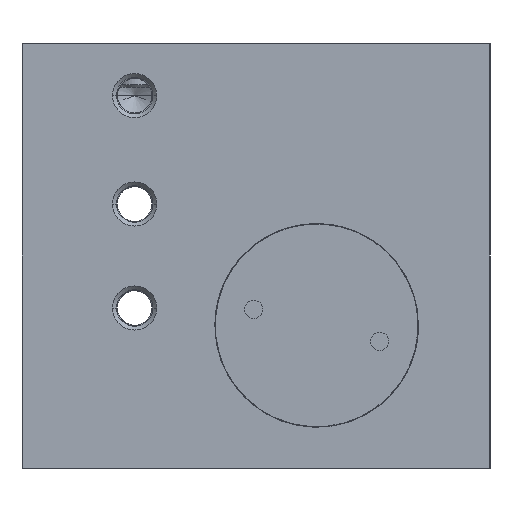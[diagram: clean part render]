
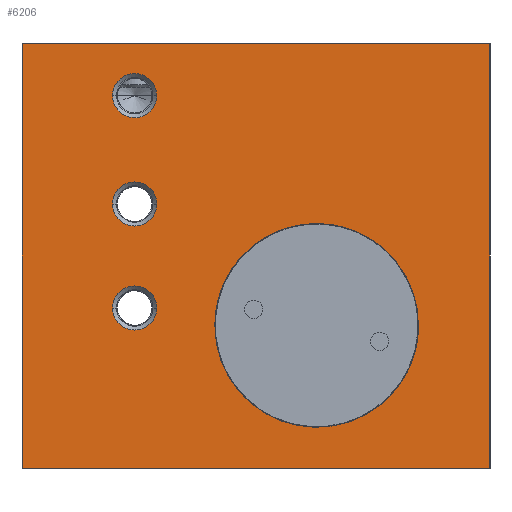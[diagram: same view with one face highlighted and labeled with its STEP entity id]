
A CAD part, left-side view. The second image highlights one B-rep face of the part: STEP entity #6206.
In plain terms, the highlighted planar face has unit normal (-1, 0, 0).
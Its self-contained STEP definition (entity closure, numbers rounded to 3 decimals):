
#705=DIRECTION('',(0.,0.,-1.));
#706=VECTOR('',#705,49.);
#707=CARTESIAN_POINT('',(-68.,0.,24.5));
#708=LINE('',#707,#706);
#781=DIRECTION('',(0.,1.,0.));
#782=VECTOR('',#781,54.);
#783=CARTESIAN_POINT('',(-68.,-54.,-24.5));
#784=LINE('',#783,#782);
#785=CARTESIAN_POINT('',(-68.,-34.,-8.));
#786=DIRECTION('',(1.,0.,0.));
#787=DIRECTION('',(0.,1.,0.));
#788=AXIS2_PLACEMENT_3D('',#785,#786,#787);
#790=CARTESIAN_POINT('',(-68.,-34.,-8.));
#791=DIRECTION('',(1.,0.,0.));
#792=DIRECTION('',(0.,-1.,0.));
#793=AXIS2_PLACEMENT_3D('',#790,#791,#792);
#795=CARTESIAN_POINT('',(-68.,-13.,-6.));
#796=DIRECTION('',(1.,0.,0.));
#797=DIRECTION('',(0.,-1.,0.));
#798=AXIS2_PLACEMENT_3D('',#795,#796,#797);
#800=CARTESIAN_POINT('',(-68.,-13.,-6.));
#801=DIRECTION('',(1.,0.,0.));
#802=DIRECTION('',(0.,1.,0.));
#803=AXIS2_PLACEMENT_3D('',#800,#801,#802);
#805=CARTESIAN_POINT('',(-68.,-13.,6.));
#806=DIRECTION('',(1.,0.,0.));
#807=DIRECTION('',(0.,-1.,0.));
#808=AXIS2_PLACEMENT_3D('',#805,#806,#807);
#810=CARTESIAN_POINT('',(-68.,-13.,6.));
#811=DIRECTION('',(1.,0.,0.));
#812=DIRECTION('',(0.,1.,0.));
#813=AXIS2_PLACEMENT_3D('',#810,#811,#812);
#815=CARTESIAN_POINT('',(-68.,-13.,18.5));
#816=DIRECTION('',(1.,0.,0.));
#817=DIRECTION('',(0.,-1.,0.));
#818=AXIS2_PLACEMENT_3D('',#815,#816,#817);
#820=CARTESIAN_POINT('',(-68.,-13.,18.5));
#821=DIRECTION('',(1.,0.,0.));
#822=DIRECTION('',(0.,1.,0.));
#823=AXIS2_PLACEMENT_3D('',#820,#821,#822);
#833=DIRECTION('',(0.,1.,0.));
#834=VECTOR('',#833,54.);
#835=CARTESIAN_POINT('',(-68.,-54.,24.5));
#836=LINE('',#835,#834);
#1019=DIRECTION('',(0.,0.,-1.));
#1020=VECTOR('',#1019,49.);
#1021=CARTESIAN_POINT('',(-68.,-54.,24.5));
#1022=LINE('',#1021,#1020);
#4637=CARTESIAN_POINT('',(-68.,0.,24.5));
#4638=CARTESIAN_POINT('',(-68.,0.,-24.5));
#4639=VERTEX_POINT('',#4637);
#4640=VERTEX_POINT('',#4638);
#4645=CARTESIAN_POINT('',(-68.,-54.,24.5));
#4646=CARTESIAN_POINT('',(-68.,-54.,-24.5));
#4647=VERTEX_POINT('',#4645);
#4648=VERTEX_POINT('',#4646);
#4793=CARTESIAN_POINT('',(-68.,-22.25,-8.));
#4794=CARTESIAN_POINT('',(-68.,-45.75,-8.));
#4795=VERTEX_POINT('',#4793);
#4796=VERTEX_POINT('',#4794);
#5023=CARTESIAN_POINT('',(-68.,-15.55,-6.));
#5024=VERTEX_POINT('',#5023);
#5027=CARTESIAN_POINT('',(-68.,-10.45,-6.));
#5028=VERTEX_POINT('',#5027);
#5039=CARTESIAN_POINT('',(-68.,-15.55,6.));
#5040=VERTEX_POINT('',#5039);
#5043=CARTESIAN_POINT('',(-68.,-10.45,6.));
#5044=VERTEX_POINT('',#5043);
#5089=CARTESIAN_POINT('',(-68.,-15.55,18.5));
#5090=VERTEX_POINT('',#5089);
#5093=CARTESIAN_POINT('',(-68.,-10.45,18.5));
#5094=VERTEX_POINT('',#5093);
#6168=CARTESIAN_POINT('',(-68.,0.,-24.5));
#6169=DIRECTION('',(-1.,0.,0.));
#6170=DIRECTION('',(0.,0.,1.));
#6171=AXIS2_PLACEMENT_3D('',#6168,#6169,#6170);
#6172=PLANE('',#6171);
#6173=ORIENTED_EDGE('',*,*,#6122,.F.);
#6175=ORIENTED_EDGE('',*,*,#6174,.F.);
#6177=ORIENTED_EDGE('',*,*,#6176,.T.);
#6179=ORIENTED_EDGE('',*,*,#6178,.T.);
#6180=EDGE_LOOP('',(#6173,#6175,#6177,#6179));
#6181=FACE_OUTER_BOUND('',#6180,.F.);
#6183=ORIENTED_EDGE('',*,*,#6182,.F.);
#6185=ORIENTED_EDGE('',*,*,#6184,.F.);
#6186=EDGE_LOOP('',(#6183,#6185));
#6187=FACE_BOUND('',#6186,.F.);
#6189=ORIENTED_EDGE('',*,*,#6188,.F.);
#6191=ORIENTED_EDGE('',*,*,#6190,.F.);
#6192=EDGE_LOOP('',(#6189,#6191));
#6193=FACE_BOUND('',#6192,.F.);
#6195=ORIENTED_EDGE('',*,*,#6194,.F.);
#6197=ORIENTED_EDGE('',*,*,#6196,.F.);
#6198=EDGE_LOOP('',(#6195,#6197));
#6199=FACE_BOUND('',#6198,.F.);
#6201=ORIENTED_EDGE('',*,*,#6200,.F.);
#6203=ORIENTED_EDGE('',*,*,#6202,.F.);
#6204=EDGE_LOOP('',(#6201,#6203));
#6205=FACE_BOUND('',#6204,.F.);
#789=CIRCLE('',#788,11.75);
#794=CIRCLE('',#793,11.75);
#799=CIRCLE('',#798,2.55);
#804=CIRCLE('',#803,2.55);
#809=CIRCLE('',#808,2.55);
#814=CIRCLE('',#813,2.55);
#819=CIRCLE('',#818,2.55);
#824=CIRCLE('',#823,2.55);
#6122=EDGE_CURVE('',#4639,#4640,#708,.T.);
#6174=EDGE_CURVE('',#4647,#4639,#836,.T.);
#6176=EDGE_CURVE('',#4647,#4648,#1022,.T.);
#6178=EDGE_CURVE('',#4648,#4640,#784,.T.);
#6182=EDGE_CURVE('',#4795,#4796,#789,.T.);
#6184=EDGE_CURVE('',#4796,#4795,#794,.T.);
#6188=EDGE_CURVE('',#5024,#5028,#799,.T.);
#6190=EDGE_CURVE('',#5028,#5024,#804,.T.);
#6194=EDGE_CURVE('',#5040,#5044,#809,.T.);
#6196=EDGE_CURVE('',#5044,#5040,#814,.T.);
#6200=EDGE_CURVE('',#5090,#5094,#819,.T.);
#6202=EDGE_CURVE('',#5094,#5090,#824,.T.);
#6206=ADVANCED_FACE('',(#6181,#6187,#6193,#6199,#6205),#6172,.T.);
